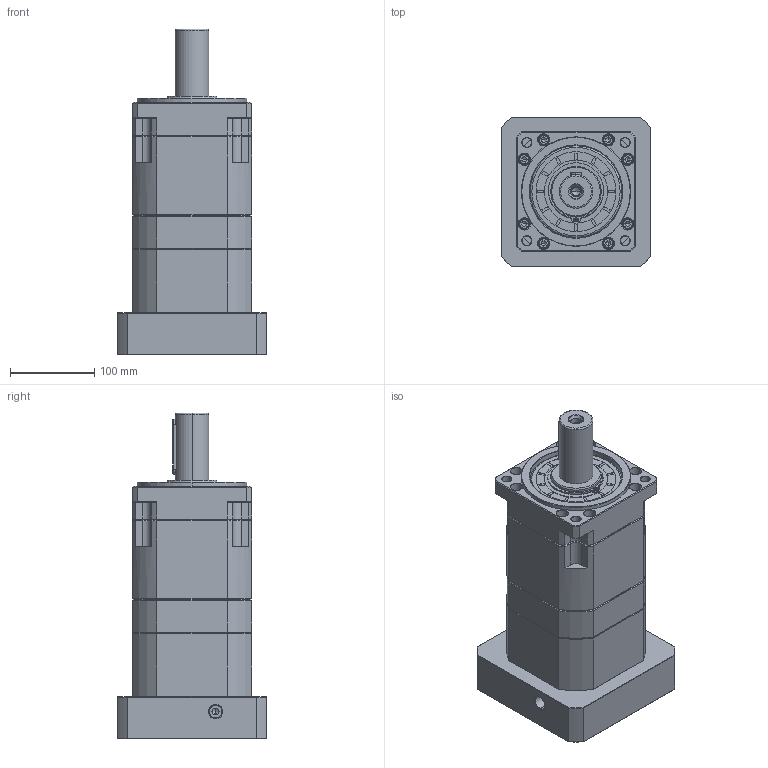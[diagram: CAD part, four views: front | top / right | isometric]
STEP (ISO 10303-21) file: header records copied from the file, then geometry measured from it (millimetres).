
FILE_DESCRIPTION (( 'STEP AP214' ), '1' );
FILE_NAME ('ZB142A-D40-L3-42-114.3-200-M12.step', '2023-03-18T06:15:31', ( '' ), ( '' ), 'SwSTEP 2.0', 'SolidWorks 2016', '' );
FILE_SCHEMA (( 'AUTOMOTIVE_DESIGN' ));
Length unit declared in the file: millimetre
Products named in the file (1): ZB142A-D40-L3-42-114.3-200-M12
Bounding box: 178 x 178 x 387.2 mm (x, y, z)
Volume: 5596566 mm3; surface area: 414056.4 mm2
Topology: 6 solids, 6 shells, 2213 faces, 5690 edges, 3584 vertices
Faces by surface type: plane 1025, cylinder 456, cone 399, bspline 311, torus 22
Entity records: 118329 total; most frequent: CARTESIAN_POINT 42851, ORIENTED_EDGE 11320, DIRECTION 9492, EDGE_CURVE 5660, VERTEX_POINT 3584, VECTOR 3542, LINE 3542, AXIS2_PLACEMENT_3D 2975
